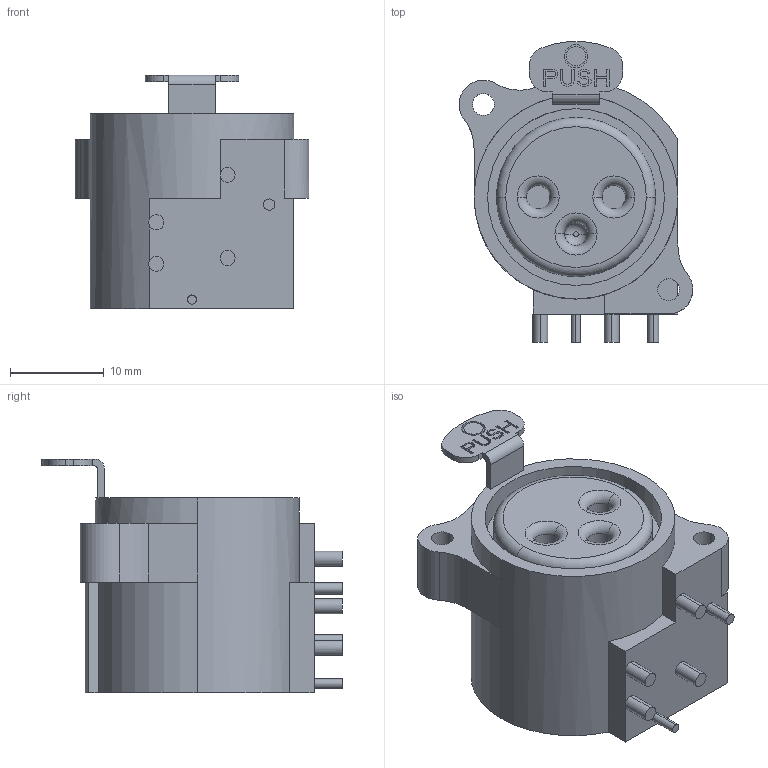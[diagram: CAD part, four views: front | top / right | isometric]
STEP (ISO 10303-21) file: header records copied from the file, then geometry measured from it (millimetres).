
FILE_DESCRIPTION (( 'STEP AP214' ), '1' );
FILE_NAME ('User Library-nc3fah1.STEP', '2020-02-27T02:07:22', ( '' ), ( '' ), 'SwSTEP 2.0', 'SolidWorks 2019', '' );
FILE_SCHEMA (( 'AUTOMOTIVE_DESIGN' ));
Length unit declared in the file: millimetre
Products named in the file (1): User Library-nc3fah1
Bounding box: 25 x 32.1 x 25.01 mm (x, y, z)
Volume: 8876.7 mm3; surface area: 3616 mm2
Topology: 1 solids, 1 shells, 225 faces, 602 edges, 393 vertices
Faces by surface type: plane 166, cylinder 49, torus 10
Entity records: 7011 total; most frequent: CARTESIAN_POINT 1221, ORIENTED_EDGE 1204, DIRECTION 1187, EDGE_CURVE 602, VECTOR 469, LINE 469, VERTEX_POINT 393, AXIS2_PLACEMENT_3D 359
